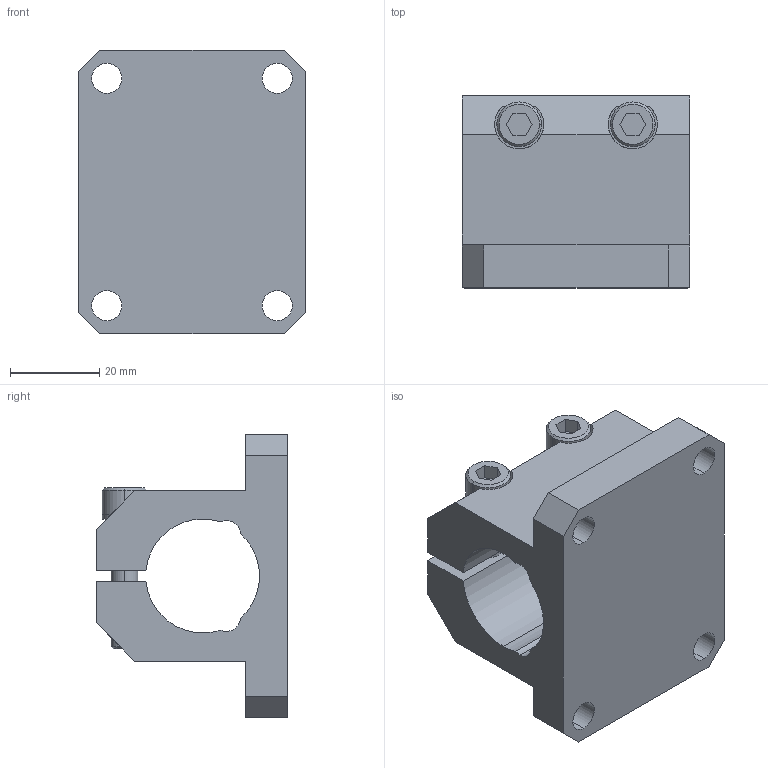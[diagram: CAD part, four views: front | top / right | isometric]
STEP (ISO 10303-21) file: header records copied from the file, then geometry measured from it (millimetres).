
FILE_DESCRIPTION (( 'STEP AP214' ), '1' );
FILE_NAME ('RTI-FCH-100.STEP', '2013-10-22T13:50:14', ( 'user' ), ( '' ), 'SwSTEP 2.0', 'SolidWorks 2009', '' );
FILE_SCHEMA (( 'AUTOMOTIVE_DESIGN' ));
Length unit declared in the file: inch
Products named in the file (4): RTI-FCH-100; M6 WASHER; M6 S.H.C.S._M6x30mm
Assembly tree (5 placements, depth 2):
  RTI-FCH-100
    M6 S.H.C.S._M6x30mm  x2
    M6 WASHER  x2
    RTI-FCH-100
Bounding box: 50.8 x 42.88 x 63.5 mm (x, y, z)
Volume: 62519.9 mm3; surface area: 21355.4 mm2
Topology: 5 solids, 5 shells, 398 faces, 1027 edges, 682 vertices
Faces by surface type: plane 251, bspline 90, cylinder 49, cone 8
Entity records: 20799 total; most frequent: CARTESIAN_POINT 8253, ORIENTED_EDGE 1954, DIRECTION 1447, EDGE_CURVE 977, LINE 703, VECTOR 703, VERTEX_POINT 650, EDGE_LOOP 433
